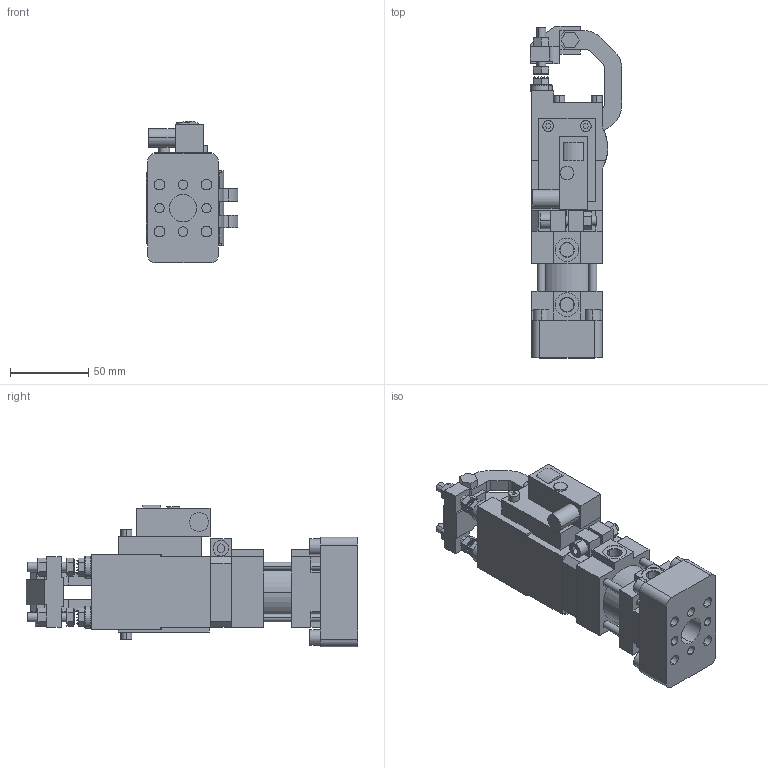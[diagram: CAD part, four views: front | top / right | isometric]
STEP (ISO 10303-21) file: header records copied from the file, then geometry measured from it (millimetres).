
FILE_DESCRIPTION (( 'STEP AP214' ), '1' );
FILE_NAME ('b32_a2s4_pla___a_c.STEP', '2018-05-08T12:49:35', ( 'vepadmin' ), ( 'Hewlett-Packard Company' ), 'SwSTEP 2.0', 'SolidWorks 2018', '' );
FILE_SCHEMA (( 'AUTOMOTIVE_DESIGN' ));
Length unit declared in the file: millimetre
Products named in the file (13): piedino_zigrinato_M6x25; rondella_s4_b32a; piedino_zigrinato_M6x10; blocchetto_p&f_90; scatola_micro_b32; riparo_micro_b32; leva_b32a; gruppo_montante_b32a; b32_a2s4_pla___a_c; tassello_a2_b32; attacco_c_b32; gruppo_cilindro_piastra_c_b32; distanziale_b32
Assembly tree (15 placements, depth 2):
  b32_a2s4_pla___a_c
    gruppo_montante_b32a
    leva_b32a
    riparo_micro_b32
    scatola_micro_b32
    blocchetto_p&f_90
    piedino_zigrinato_M6x10  x2
    rondella_s4_b32a  x2
    piedino_zigrinato_M6x25  x2
    distanziale_b32
    gruppo_cilindro_piastra_c_b32
    attacco_c_b32
    tassello_a2_b32
Bounding box: 58.5 x 212 x 90.6 mm (x, y, z)
Volume: 412439.1 mm3; surface area: 113011.9 mm2
Topology: 15 solids, 15 shells, 1088 faces, 2546 edges, 1653 vertices
Faces by surface type: plane 778, cylinder 276, cone 34
Entity records: 24876 total; most frequent: CARTESIAN_POINT 4435, DIRECTION 4076, ORIENTED_EDGE 4004, EDGE_CURVE 2002, VECTOR 1452, LINE 1452, AXIS2_PLACEMENT_3D 1312, VERTEX_POINT 1311
